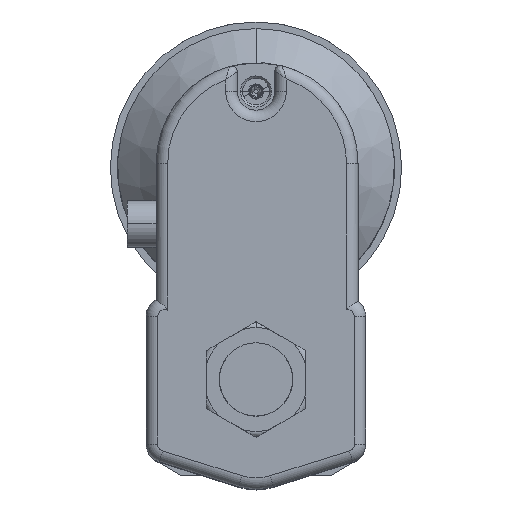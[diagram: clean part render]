
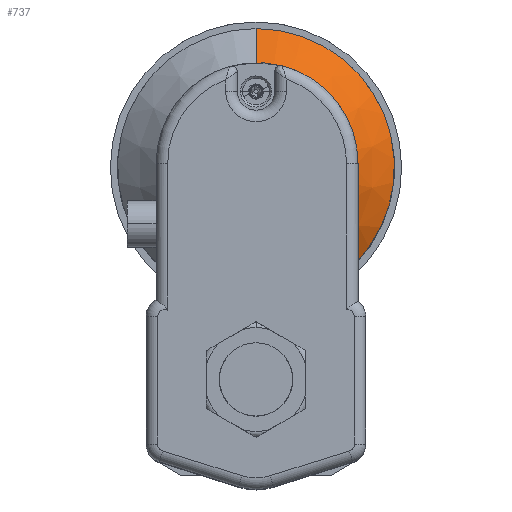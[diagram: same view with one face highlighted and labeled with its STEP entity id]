
A CAD part, top view. The second image highlights one B-rep face of the part: STEP entity #737.
In plain terms, the highlighted conical face has half-angle 45 degrees and reference radius 48 mm.
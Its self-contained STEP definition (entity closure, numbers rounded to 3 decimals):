
#198 = VERTEX_POINT ( 'NONE', #4056 ) ;
#204 = VERTEX_POINT ( 'NONE', #4063 ) ;
#737 = ADVANCED_FACE ( 'NONE', ( #2128 ), #2129, .T. ) ;
#940 = B_SPLINE_CURVE_WITH_KNOTS ( 'NONE', 3,
 ( #8858, #8861, #8862, #8863, #8864, #8865, #8866, #8867, #8868, #8869, #8870, #8871 ),
 .UNSPECIFIED., .F., .F.,
 ( 4, 2, 2, 2, 2, 4 ),
 ( 0.029, 0.037, 0.04, 0.044, 0.051, 0.059 ),
 .UNSPECIFIED. ) ;
#1377 = AXIS2_PLACEMENT_3D ( 'NONE', #3489, #3488, #3480 ) ;
#1909 = AXIS2_PLACEMENT_3D ( 'NONE', #8799, #8807, #8808 ) ;
#1920 = AXIS2_PLACEMENT_3D ( 'NONE', #8851, #8856, #8857 ) ;
#2128 = FACE_OUTER_BOUND ( 'NONE', #11021, .T. ) ;
#2129 = CONICAL_SURFACE ( 'NONE', #1377, 48., 0.785 ) ;
#3480 = DIRECTION ( 'NONE',  ( 0., 1., 0. ) ) ;
#3488 = DIRECTION ( 'NONE',  ( 0., 0., -1. ) ) ;
#3489 = CARTESIAN_POINT ( 'NONE',  ( 0., 73.9, 53.5 ) ) ;
#4056 = CARTESIAN_POINT ( 'NONE',  ( 0., 107.9, 67.5 ) ) ;
#4063 = CARTESIAN_POINT ( 'NONE',  ( 0., 39.9, 67.5 ) ) ;
#5750 = CARTESIAN_POINT ( 'NONE',  ( 0., 121.9, 53.5 ) ) ;
#5757 = CARTESIAN_POINT ( 'NONE',  ( 27.908, 34.847, 53.5 ) ) ;
#5758 = CARTESIAN_POINT ( 'NONE',  ( 0., 33.529, 61.129 ) ) ;
#7428 = LINE ( 'NONE', #8693, #7429 ) ;
#7429 = VECTOR ( 'NONE', #8694, 1000. ) ;
#7545 = LINE ( 'NONE', #8779, #7553 ) ;
#7553 = VECTOR ( 'NONE', #8800, 1000. ) ;
#7563 = CIRCLE ( 'NONE', #1909, 34. ) ;
#7609 = CIRCLE ( 'NONE', #1920, 48. ) ;
#8693 = CARTESIAN_POINT ( 'NONE',  ( 0., 121.9, 53.5 ) ) ;
#8694 = DIRECTION ( 'NONE',  ( 0., 0.707, -0.707 ) ) ;
#8779 = CARTESIAN_POINT ( 'NONE',  ( 0., 25.9, 53.5 ) ) ;
#8799 = CARTESIAN_POINT ( 'NONE',  ( 0., 73.9, 67.5 ) ) ;
#8800 = DIRECTION ( 'NONE',  ( 0., -0.707, -0.707 ) ) ;
#8807 = DIRECTION ( 'NONE',  ( 0., 0., 1. ) ) ;
#8808 = DIRECTION ( 'NONE',  ( 0., -1., 0. ) ) ;
#8851 = CARTESIAN_POINT ( 'NONE',  ( 0., 73.9, 53.5 ) ) ;
#8856 = DIRECTION ( 'NONE',  ( 0., 0., 1. ) ) ;
#8857 = DIRECTION ( 'NONE',  ( 0., -1., 0. ) ) ;
#8858 = CARTESIAN_POINT ( 'NONE',  ( 0., 33.529, 61.129 ) ) ;
#8861 = CARTESIAN_POINT ( 'NONE',  ( 2.446, 33.529, 61.129 ) ) ;
#8862 = CARTESIAN_POINT ( 'NONE',  ( 4.88, 33.569, 60.945 ) ) ;
#8863 = CARTESIAN_POINT ( 'NONE',  ( 8.513, 33.679, 60.406 ) ) ;
#8864 = CARTESIAN_POINT ( 'NONE',  ( 9.724, 33.725, 60.181 ) ) ;
#8865 = CARTESIAN_POINT ( 'NONE',  ( 12.111, 33.829, 59.655 ) ) ;
#8866 = CARTESIAN_POINT ( 'NONE',  ( 13.29, 33.888, 59.353 ) ) ;
#8867 = CARTESIAN_POINT ( 'NONE',  ( 16.788, 34.077, 58.341 ) ) ;
#8868 = CARTESIAN_POINT ( 'NONE',  ( 19.068, 34.223, 57.527 ) ) ;
#8869 = CARTESIAN_POINT ( 'NONE',  ( 23.545, 34.528, 55.671 ) ) ;
#8870 = CARTESIAN_POINT ( 'NONE',  ( 25.743, 34.688, 54.63 ) ) ;
#8871 = CARTESIAN_POINT ( 'NONE',  ( 27.908, 34.847, 53.5 ) ) ;
#9483 = ORIENTED_EDGE ( 'NONE', *, *, #11451, .F. ) ;
#9484 = ORIENTED_EDGE ( 'NONE', *, *, #11448, .T. ) ;
#9485 = ORIENTED_EDGE ( 'NONE', *, *, #11475, .T. ) ;
#9486 = ORIENTED_EDGE ( 'NONE', *, *, #11473, .T. ) ;
#9487 = ORIENTED_EDGE ( 'NONE', *, *, #11399, .F. ) ;
#10530 = VERTEX_POINT ( 'NONE', #5750 ) ;
#10537 = VERTEX_POINT ( 'NONE', #5757 ) ;
#10538 = VERTEX_POINT ( 'NONE', #5758 ) ;
#11021 = EDGE_LOOP ( 'NONE', ( #9483, #9484, #9485, #9486, #9487 ) ) ;
#11399 = EDGE_CURVE ( 'NONE', #198, #10530, #7428, .T. ) ;
#11448 = EDGE_CURVE ( 'NONE', #204, #10538, #7545, .T. ) ;
#11451 = EDGE_CURVE ( 'NONE', #204, #198, #7563, .T. ) ;
#11473 = EDGE_CURVE ( 'NONE', #10537, #10530, #7609, .T. ) ;
#11475 = EDGE_CURVE ( 'NONE', #10538, #10537, #940, .T. ) ;
